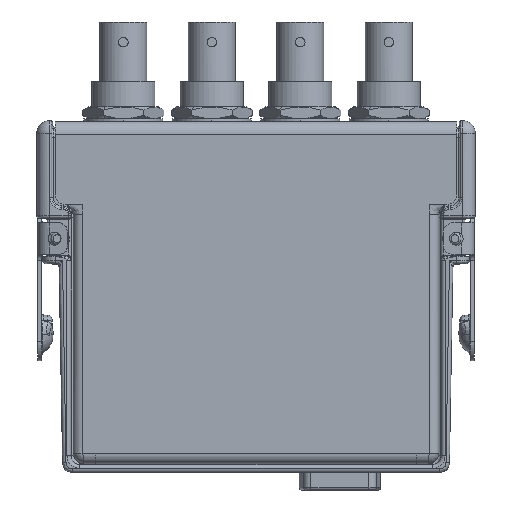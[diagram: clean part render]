
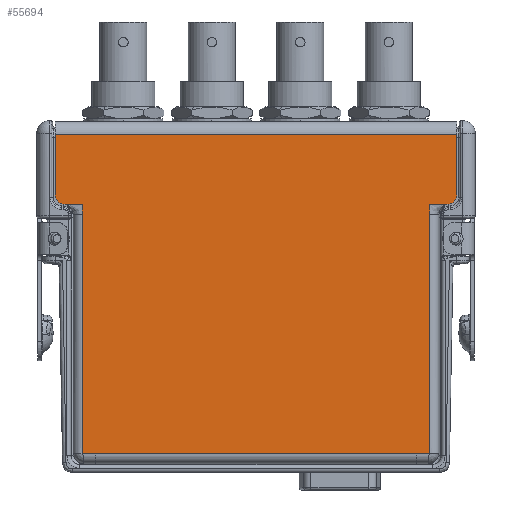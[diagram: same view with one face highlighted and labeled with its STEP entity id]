
A CAD part, left-side view. The second image highlights one B-rep face of the part: STEP entity #55694.
In plain terms, the highlighted planar face has unit normal (-1, 0, 0).
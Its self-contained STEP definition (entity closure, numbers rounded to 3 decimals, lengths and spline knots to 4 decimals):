
#18709=DIRECTION('',(0.,-1.,0.));
#18710=VECTOR('',#18709,3.179);
#18711=CARTESIAN_POINT('',(-0.4475,1.5895,2.676));
#18712=LINE('',#18711,#18710);
#18789=CARTESIAN_POINT('',(-0.4475,1.5095,2.2));
#18790=DIRECTION('',(-1.,0.,0.));
#18791=DIRECTION('',(0.,1.,0.));
#18792=AXIS2_PLACEMENT_3D('',#18789,#18790,#18791);
#18794=DIRECTION('',(0.,-1.,0.));
#18795=VECTOR('',#18794,0.133);
#18796=CARTESIAN_POINT('',(-0.4475,1.5095,2.12));
#18797=LINE('',#18796,#18795);
#18806=DIRECTION('',(0.,0.,-1.));
#18807=VECTOR('',#18806,0.476);
#18808=CARTESIAN_POINT('',(-0.4475,1.5895,2.676));
#18809=LINE('',#18808,#18807);
#18810=DIRECTION('',(0.,0.,1.));
#18811=VECTOR('',#18810,0.476);
#18812=CARTESIAN_POINT('',(-0.4475,-1.5895,2.2));
#18813=LINE('',#18812,#18811);
#18814=DIRECTION('',(0.,0.,1.));
#18815=VECTOR('',#18814,0.079);
#18816=CARTESIAN_POINT('',(-0.4475,-1.3765,2.041));
#18817=LINE('',#18816,#18815);
#18818=DIRECTION('',(0.,-1.,0.));
#18819=VECTOR('',#18818,0.105);
#18820=CARTESIAN_POINT('',(-0.4475,-1.2715,0.146));
#18821=LINE('',#18820,#18819);
#18822=DIRECTION('',(0.,-1.,0.));
#18823=VECTOR('',#18822,0.105);
#18824=CARTESIAN_POINT('',(-0.4475,1.3765,0.146));
#18825=LINE('',#18824,#18823);
#18826=DIRECTION('',(0.,0.,1.));
#18827=VECTOR('',#18826,0.079);
#18828=CARTESIAN_POINT('',(-0.4475,1.3765,2.041));
#18829=LINE('',#18828,#18827);
#18847=CARTESIAN_POINT('',(-0.4475,-1.5095,2.2));
#18848=DIRECTION('',(-1.,0.,0.));
#18849=DIRECTION('',(0.,0.,-1.));
#18850=AXIS2_PLACEMENT_3D('',#18847,#18848,#18849);
#18860=DIRECTION('',(0.,-1.,0.));
#18861=VECTOR('',#18860,0.133);
#18862=CARTESIAN_POINT('',(-0.4475,-1.3765,2.12));
#18863=LINE('',#18862,#18861);
#18895=DIRECTION('',(0.,0.,1.));
#18896=VECTOR('',#18895,1.895);
#18897=CARTESIAN_POINT('',(-0.4475,-1.3765,0.146));
#18898=LINE('',#18897,#18896);
#19086=DIRECTION('',(0.,-1.,0.));
#19087=VECTOR('',#19086,2.543);
#19088=CARTESIAN_POINT('',(-0.4475,1.2715,0.146));
#19089=LINE('',#19088,#19087);
#20279=DIRECTION('',(0.,0.,1.));
#20280=VECTOR('',#20279,1.895);
#20281=CARTESIAN_POINT('',(-0.4475,1.3765,0.146));
#20282=LINE('',#20281,#20280);
#30883=CARTESIAN_POINT('',(-0.4475,-1.5895,2.676));
#30884=VERTEX_POINT('',#30883);
#30885=CARTESIAN_POINT('',(-0.4475,1.5895,2.676));
#30886=VERTEX_POINT('',#30885);
#30915=CARTESIAN_POINT('',(-0.4475,1.2715,0.146));
#30916=CARTESIAN_POINT('',(-0.4475,-1.2715,0.146));
#30917=VERTEX_POINT('',#30915);
#30918=VERTEX_POINT('',#30916);
#30927=CARTESIAN_POINT('',(-0.4475,-1.3765,0.146));
#30928=VERTEX_POINT('',#30927);
#30939=CARTESIAN_POINT('',(-0.4475,1.3765,0.146));
#30940=VERTEX_POINT('',#30939);
#30988=CARTESIAN_POINT('',(-0.4475,1.5095,2.12));
#30990=VERTEX_POINT('',#30988);
#30993=CARTESIAN_POINT('',(-0.4475,1.5895,2.2));
#30994=VERTEX_POINT('',#30993);
#30996=CARTESIAN_POINT('',(-0.4475,-1.5895,2.2));
#30998=VERTEX_POINT('',#30996);
#31001=CARTESIAN_POINT('',(-0.4475,-1.5095,2.12));
#31002=VERTEX_POINT('',#31001);
#31015=CARTESIAN_POINT('',(-0.4475,-1.3765,2.041));
#31016=VERTEX_POINT('',#31015);
#31019=CARTESIAN_POINT('',(-0.4475,-1.3765,2.12));
#31020=VERTEX_POINT('',#31019);
#31027=CARTESIAN_POINT('',(-0.4475,1.3765,2.041));
#31028=CARTESIAN_POINT('',(-0.4475,1.3765,2.12));
#31029=VERTEX_POINT('',#31027);
#31030=VERTEX_POINT('',#31028);
#55662=CARTESIAN_POINT('',(-0.4475,0.,1.421));
#55663=DIRECTION('',(-1.,0.,0.));
#55664=DIRECTION('',(0.,1.,0.));
#55665=AXIS2_PLACEMENT_3D('',#55662,#55663,#55664);
#55666=PLANE('',#55665);
#55667=ORIENTED_EDGE('',*,*,#55643,.F.);
#55669=ORIENTED_EDGE('',*,*,#55668,.F.);
#55670=ORIENTED_EDGE('',*,*,#55552,.T.);
#55672=ORIENTED_EDGE('',*,*,#55671,.F.);
#55674=ORIENTED_EDGE('',*,*,#55673,.F.);
#55676=ORIENTED_EDGE('',*,*,#55675,.F.);
#55678=ORIENTED_EDGE('',*,*,#55677,.F.);
#55680=ORIENTED_EDGE('',*,*,#55679,.F.);
#55682=ORIENTED_EDGE('',*,*,#55681,.F.);
#55684=ORIENTED_EDGE('',*,*,#55683,.F.);
#55686=ORIENTED_EDGE('',*,*,#55685,.F.);
#55688=ORIENTED_EDGE('',*,*,#55687,.T.);
#55690=ORIENTED_EDGE('',*,*,#55689,.T.);
#55691=ORIENTED_EDGE('',*,*,#55654,.F.);
#55692=EDGE_LOOP('',(#55667,#55669,#55670,#55672,#55674,#55676,#55678,#55680,
#55682,#55684,#55686,#55688,#55690,#55691));
#55693=FACE_OUTER_BOUND('',#55692,.F.);
#55694=ADVANCED_FACE('',(#55693),#55666,.T.);
#18793=CIRCLE('',#18792,0.08);
#18851=CIRCLE('',#18850,0.08);
#55552=EDGE_CURVE('',#30886,#30884,#18712,.T.);
#55643=EDGE_CURVE('',#30994,#30990,#18793,.T.);
#55654=EDGE_CURVE('',#30990,#31030,#18797,.T.);
#55668=EDGE_CURVE('',#30886,#30994,#18809,.T.);
#55671=EDGE_CURVE('',#30998,#30884,#18813,.T.);
#55673=EDGE_CURVE('',#31002,#30998,#18851,.T.);
#55675=EDGE_CURVE('',#31020,#31002,#18863,.T.);
#55677=EDGE_CURVE('',#31016,#31020,#18817,.T.);
#55679=EDGE_CURVE('',#30928,#31016,#18898,.T.);
#55681=EDGE_CURVE('',#30918,#30928,#18821,.T.);
#55683=EDGE_CURVE('',#30917,#30918,#19089,.T.);
#55685=EDGE_CURVE('',#30940,#30917,#18825,.T.);
#55687=EDGE_CURVE('',#30940,#31029,#20282,.T.);
#55689=EDGE_CURVE('',#31029,#31030,#18829,.T.);
